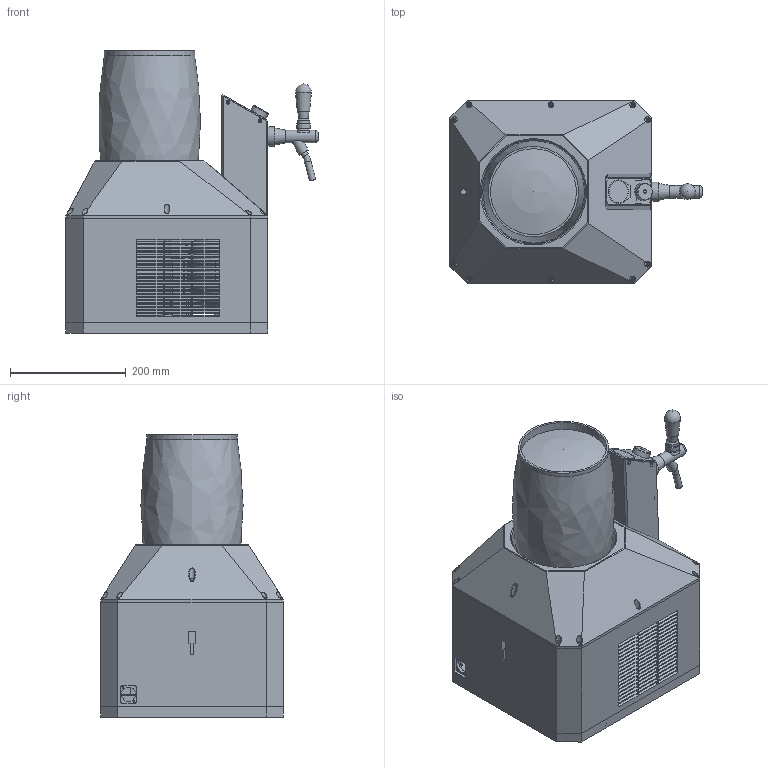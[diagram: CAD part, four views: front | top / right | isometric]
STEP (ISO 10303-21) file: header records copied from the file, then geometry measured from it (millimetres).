
FILE_DESCRIPTION(/* description */ (''),/* implementation_level */ '2;1');
FILE_NAME(/* name */ 'Bierkhler.step',/* time_stamp */ '2026-09-28T17:35:56+02:00',/* author */ (''),/* organization */ (''),/* preprocessor_version */ 'ST-DEVELOPER v20.2',/* originating_system */ 'Autodesk Translation Framework v15.15.0.0',/* authorisation */ '');
FILE_SCHEMA (('AUTOMOTIVE_DESIGN { 1 0 10303 214 3 1 1 }'));
Products named in the file (33): Bierkühler; Basis; Komponente7; Tank; Deckel; Spirale; 2026-07-25-09-37-07-719; Kühlkompressor; Radiator; Deckel (1); Motor; 2026-08-01-13-38-50-252; Deckel 2; Zapfhahn (1); Display; Zapfhahn; rotary encoder_chesr_2013; pcb; mtg flange; body_encoder; 5 pin header; decal_encoder; shaft_encoder; 90d pin_header; body_2; pins_encoder body_2; Drehregler; Bierfass; HTD5 Pulley 26T; pulley_26_5m__15_2; HTD Groß; Inverter; Batterie
Assembly tree (44 placements, depth 5):
  Bierkühler
    Basis
      Komponente7
    Tank
      Deckel
      Spirale
      2026-07-25-09-37-07-719
    Kühlkompressor
    Radiator
    Deckel (1)
    Motor
      2026-08-01-13-38-50-252
    Deckel 2
      Zapfhahn (1)
        Display
        Zapfhahn
        rotary encoder_chesr_2013
          pcb
          mtg flange
          body_encoder
          5 pin header
          90d pin_header  x5
          decal_encoder
          body_2  x4
          pins_encoder body_2  x5
          shaft_encoder
        Drehregler
    Bierfass
    HTD5 Pulley 26T
      pulley_26_5m__15_2
    HTD Groß
    Inverter
    Batterie  x2
Bounding box: 436.13 x 316 x 488 mm (x, y, z)
Volume: 15786251.5 mm3; surface area: 2502925.1 mm2
Topology: 50 solids, 50 shells, 2793 faces, 7264 edges, 4646 vertices
Faces by surface type: plane 1525, cylinder 875, bspline 188, cone 90, torus 78, sphere 37
Full cylindrical faces by diameter (mm): 0.762 x10, 0.889 x15, 1.05 x11, 1.6 x16, 2 x11, 2.5 x6, 2.7 x2, 2.972 x1, 2.997 x1, 3 x12, 3.2 x4, 3.332 x18, 3.5 x5, 3.629 x1, 3.632 x1, 4.109 x10, 4.2 x10, 4.5 x2, 5 x4, 5.2 x10, 5.5 x10, 5.969 x1, 6 x1, 6.5 x10, 6.909 x1, 7 x1, 7.4 x4, 8 x5, 9.638 x1, 9.652 x1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
Entity records: 99998 total; most frequent: CARTESIAN_POINT 34493, ORIENTED_EDGE 13464, DIRECTION 12865, EDGE_CURVE 6732, VERTEX_POINT 4350, AXIS2_PLACEMENT_3D 4304, LINE 4257, VECTOR 4257
